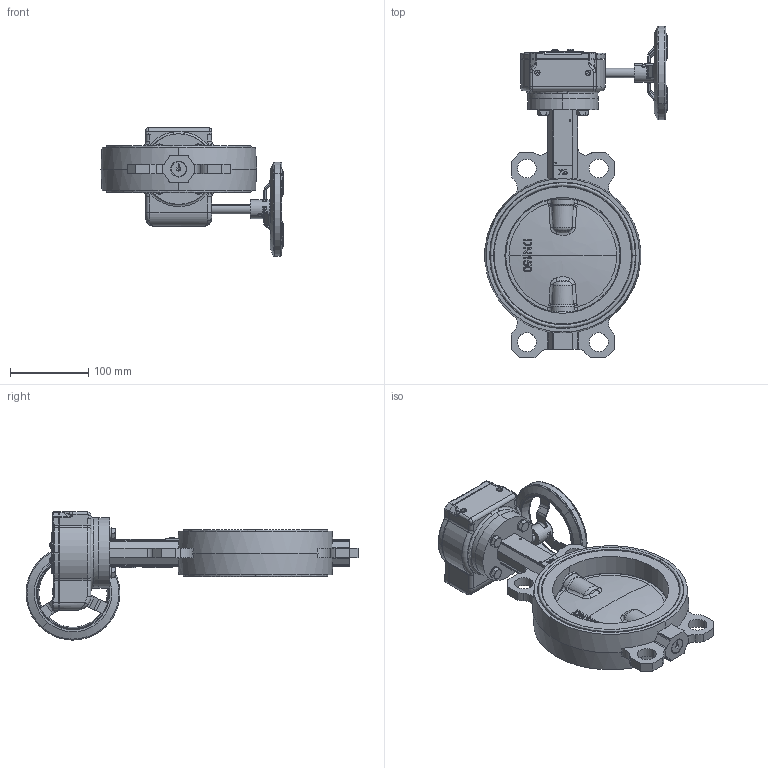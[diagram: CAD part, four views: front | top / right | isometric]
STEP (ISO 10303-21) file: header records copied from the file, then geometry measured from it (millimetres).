
FILE_DESCRIPTION (( 'STEP AP203' ), '1' );
FILE_NAME ('VPI-08 DN150.step', '2016-09-29T14:01:07', ( 'TECOFI' ), ( '' ), 'SwSTEP 2.0', 'SolidWorks 2014', '' );
FILE_SCHEMA (( 'CONFIG_CONTROL_DESIGN' ));
Length unit declared in the file: millimetre
Products named in the file (1): VPI-08 DN150
Bounding box: 232.48 x 423.99 x 163.75 mm (x, y, z)
Volume: 1736043.7 mm3; surface area: 396981.9 mm2
Topology: 33 solids, 34 shells, 2678 faces, 6948 edges, 4369 vertices
Faces by surface type: plane 1048, cylinder 620, bspline 550, cone 248, torus 189, sphere 23
Entity records: 117389 total; most frequent: CARTESIAN_POINT 56723, ORIENTED_EDGE 13700, DIRECTION 11053, EDGE_CURVE 6850, VERTEX_POINT 4369, AXIS2_PLACEMENT_3D 3964, VECTOR 3125, LINE 3125
